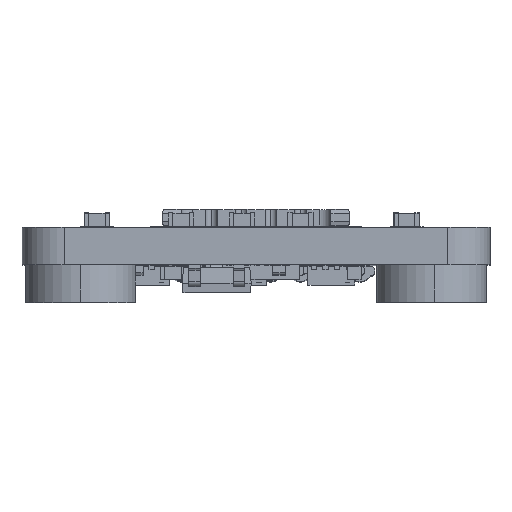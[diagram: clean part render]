
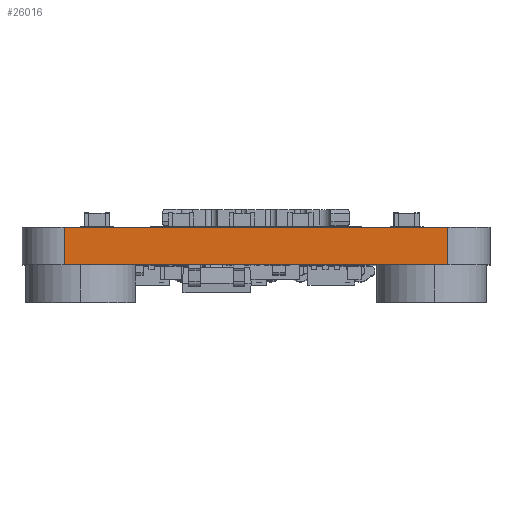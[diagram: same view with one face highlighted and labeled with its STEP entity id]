
A CAD part, top view. The second image highlights one B-rep face of the part: STEP entity #26016.
In plain terms, the highlighted planar face has unit normal (0, 0, 1).
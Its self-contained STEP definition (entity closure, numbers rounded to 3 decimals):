
#302 = ORIENTED_EDGE ( 'NONE', *, *, #24880, .T. ) ;
#2925 = DIRECTION ( 'NONE',  ( 0., 0., -1. ) ) ;
#3297 = CARTESIAN_POINT ( 'NONE',  ( 8.2, 0., 10. ) ) ;
#3782 = DIRECTION ( 'NONE',  ( 0., -1., 0. ) ) ;
#4745 = VERTEX_POINT ( 'NONE', #38040 ) ;
#5812 = ORIENTED_EDGE ( 'NONE', *, *, #26044, .F. ) ;
#6245 = VECTOR ( 'NONE', #33324, 1000. ) ;
#6875 = LINE ( 'NONE', #26485, #12669 ) ;
#7028 = LINE ( 'NONE', #20160, #6245 ) ;
#8250 = VERTEX_POINT ( 'NONE', #38441 ) ;
#10253 = VERTEX_POINT ( 'NONE', #30064 ) ;
#10269 = CARTESIAN_POINT ( 'NONE',  ( -10., 1.6, 10. ) ) ;
#12669 = VECTOR ( 'NONE', #32749, 1000. ) ;
#14031 = ORIENTED_EDGE ( 'NONE', *, *, #31396, .T. ) ;
#14768 = AXIS2_PLACEMENT_3D ( 'NONE', #10269, #2925, #35710 ) ;
#20160 = CARTESIAN_POINT ( 'NONE',  ( -10., 1.6, 10. ) ) ;
#23293 = VERTEX_POINT ( 'NONE', #3297 ) ;
#23658 = VECTOR ( 'NONE', #23973, 1000. ) ;
#23973 = DIRECTION ( 'NONE',  ( 1., 0., 0. ) ) ;
#24522 = VECTOR ( 'NONE', #3782, 1000. ) ;
#24880 = EDGE_CURVE ( 'NONE', #8250, #23293, #29801, .T. ) ;
#26016 = ADVANCED_FACE ( 'NONE', ( #39798 ), #32469, .F. ) ;
#26044 = EDGE_CURVE ( 'NONE', #10253, #4745, #7028, .T. ) ;
#26485 = CARTESIAN_POINT ( 'NONE',  ( 8.2, 1.6, 10. ) ) ;
#29801 = LINE ( 'NONE', #36932, #23658 ) ;
#30064 = CARTESIAN_POINT ( 'NONE',  ( -8.2, 1.6, 10. ) ) ;
#31396 = EDGE_CURVE ( 'NONE', #23293, #4745, #6875, .T. ) ;
#32469 = PLANE ( 'NONE',  #14768 ) ;
#32749 = DIRECTION ( 'NONE',  ( 0., 1., 0. ) ) ;
#32985 = EDGE_LOOP ( 'NONE', ( #5812, #42308, #302, #14031 ) ) ;
#33324 = DIRECTION ( 'NONE',  ( 1., 0., 0. ) ) ;
#35710 = DIRECTION ( 'NONE',  ( -1., 0., 0. ) ) ;
#35949 = EDGE_CURVE ( 'NONE', #10253, #8250, #36772, .T. ) ;
#36772 = LINE ( 'NONE', #36982, #24522 ) ;
#36932 = CARTESIAN_POINT ( 'NONE',  ( -10., 0., 10. ) ) ;
#36982 = CARTESIAN_POINT ( 'NONE',  ( -8.2, 1.6, 10. ) ) ;
#38040 = CARTESIAN_POINT ( 'NONE',  ( 8.2, 1.6, 10. ) ) ;
#38441 = CARTESIAN_POINT ( 'NONE',  ( -8.2, 0., 10. ) ) ;
#39798 = FACE_OUTER_BOUND ( 'NONE', #32985, .T. ) ;
#42308 = ORIENTED_EDGE ( 'NONE', *, *, #35949, .T. ) ;
